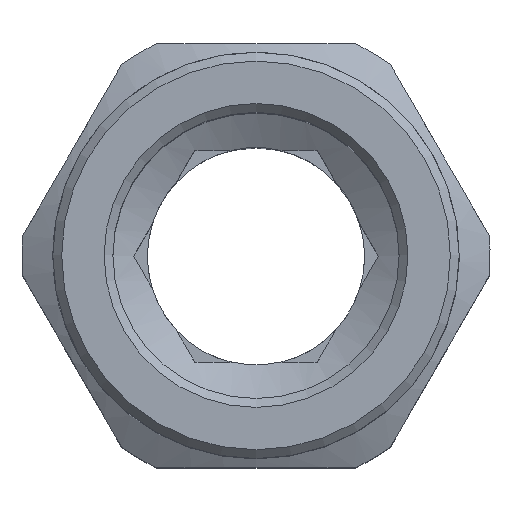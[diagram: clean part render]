
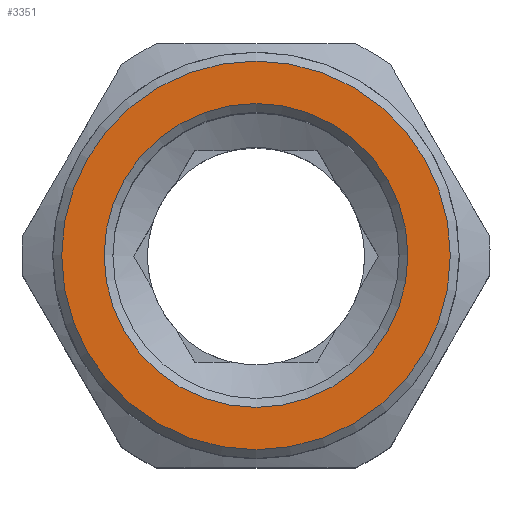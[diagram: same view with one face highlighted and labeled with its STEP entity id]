
A CAD part, top view. The second image highlights one B-rep face of the part: STEP entity #3351.
In plain terms, the highlighted planar face has unit normal (0, 0, 1) as drawn and (0, 1, 0) by its records, which use the part's own axes.
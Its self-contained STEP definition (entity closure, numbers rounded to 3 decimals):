
#1629=ORIENTED_EDGE('',*,*,#2065,.T.);
#1630=ORIENTED_EDGE('',*,*,#2066,.F.);
#1895=CIRCLE('',#3156,11.);
#1896=CIRCLE('',#3158,8.6);
#1962=VERTEX_POINT('',#2844);
#1963=VERTEX_POINT('',#2847);
#2065=EDGE_CURVE('',#1962,#1962,#1895,.T.);
#2066=EDGE_CURVE('',#1963,#1963,#1896,.T.);
#2216=EDGE_LOOP('',(#1629));
#2217=EDGE_LOOP('',(#1630));
#2330=FACE_BOUND('',#2216,.T.);
#2331=FACE_BOUND('',#2217,.T.);
#2468=DIRECTION('',(0.,1.,0.));
#2469=DIRECTION('',(0.,0.,11.));
#2470=DIRECTION('',(0.,1.,0.));
#2471=DIRECTION('',(1.,0.,0.));
#2472=DIRECTION('',(0.,1.,0.));
#2473=DIRECTION('',(0.,0.,8.6));
#2844=CARTESIAN_POINT('',(123.303,71.308,0.));
#2845=CARTESIAN_POINT('',(112.303,71.308,0.));
#2846=CARTESIAN_POINT('',(112.303,71.308,0.));
#2847=CARTESIAN_POINT('',(120.903,71.308,0.));
#2848=CARTESIAN_POINT('',(112.303,71.308,0.));
#3156=AXIS2_PLACEMENT_3D('',#2845,#2468,#2469);
#3157=AXIS2_PLACEMENT_3D('',#2846,#2470,#2471);
#3158=AXIS2_PLACEMENT_3D('',#2848,#2472,#2473);
#3303=PLANE('',#3157);
#3351=ADVANCED_FACE('',(#2330,#2331),#3303,.T.);
